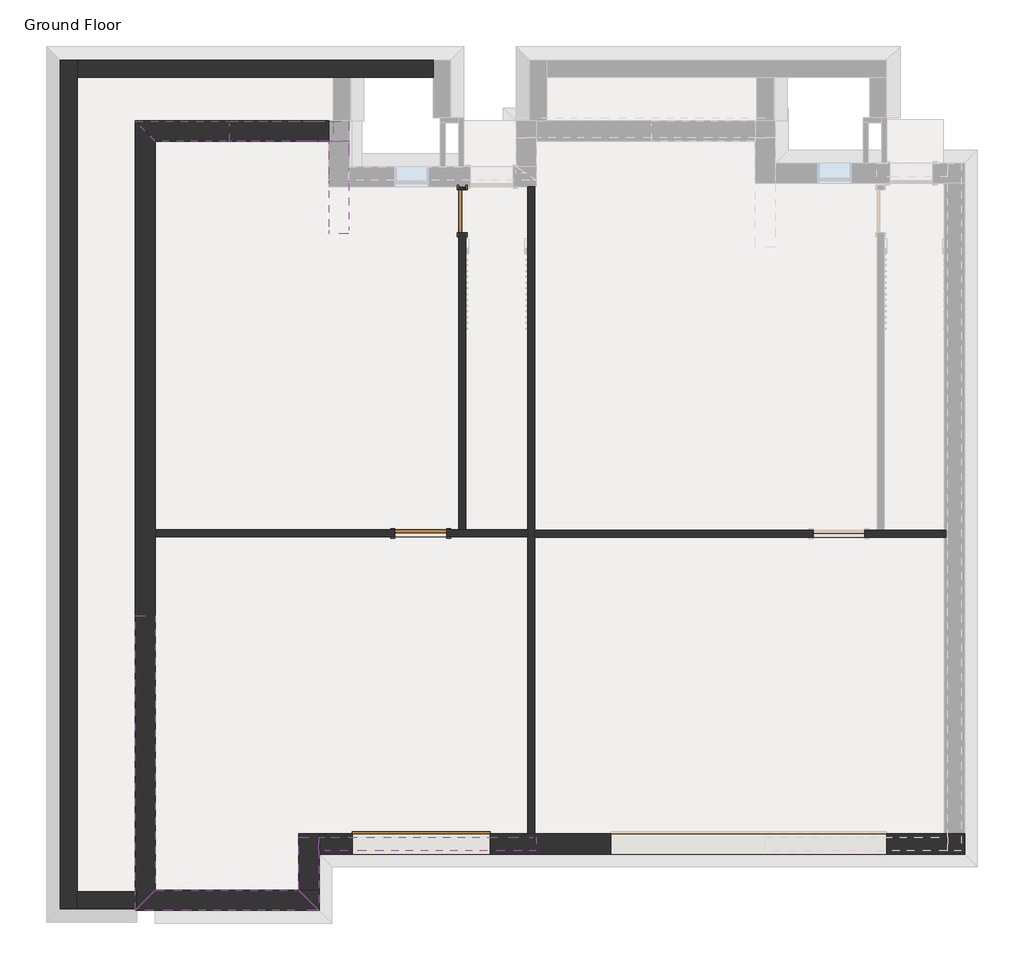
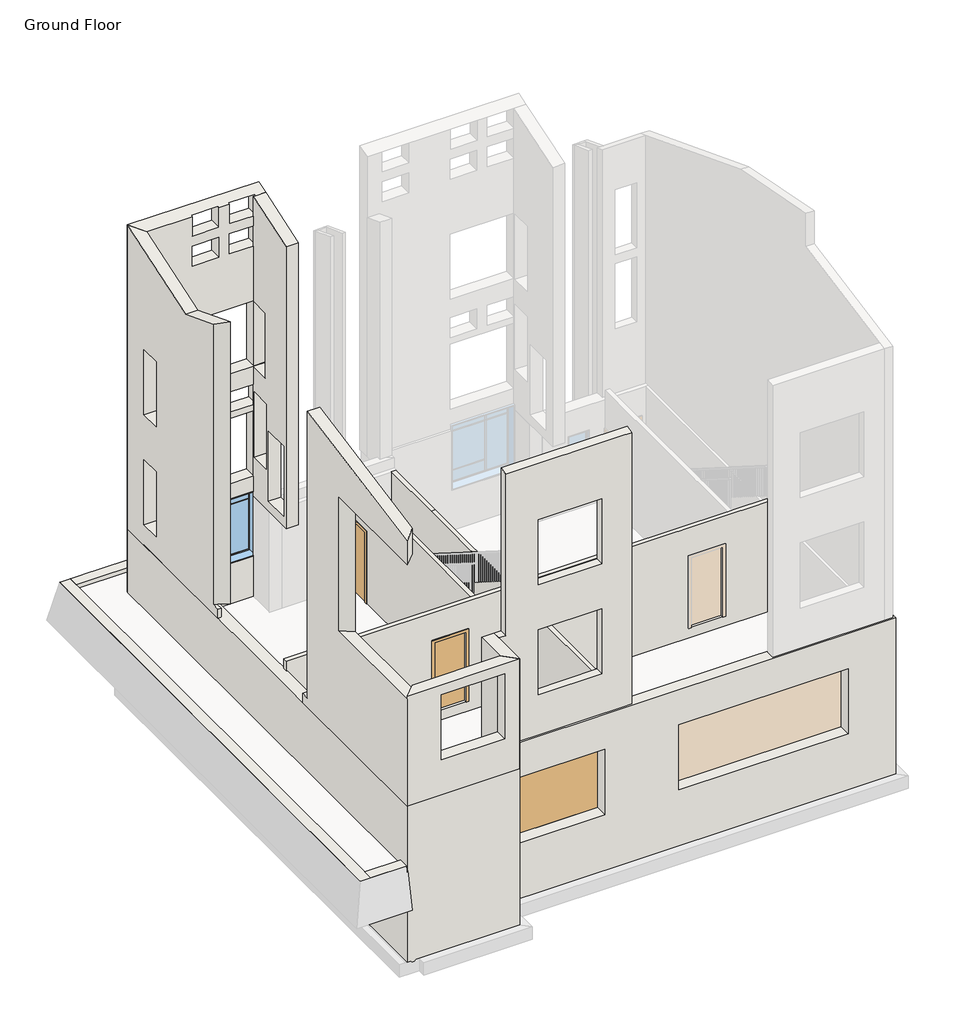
# One storey, part 1 of 3: 18 walls, 3 doors, 1 window.
"""IFC4 building model written with IfcOpenShell, lengths in millimetres."""

from ifc_helpers import new_model, si_unit, frame, origin, place, context, project, spatial, polyline, outline, extrude, faceted_brep, transform, mapped, element, save
from components import door_1b444c49, door_f8acb57e, door_88503111, condo_apartment_window2_condo_apartment_window2_cbcd33dc

model = new_model("IFC4")

# Units and contexts
model_context = context("Model", 3, world=origin())
ifc_project = project(units=[si_unit("LENGTHUNIT", "METRE", prefix="MILLI")], contexts=[model_context])

# Site, building, storey
site = spatial("IfcSite", under=ifc_project)
building = spatial("IfcBuilding", under=site)
storey = spatial("IfcBuildingStorey", under=building, Name="Ground Floor", Elevation=-3352.8)

# Doors
placement = place(None, origin())
door_shape = door_1b444c49(model_context)
element("IfcDoor", 1, ObjectType="Overhead-Sectional : 8' x 6'-6\"", at=placement, inside=storey, context=model_context, shape_type="MappedRepresentation", body=[
    mapped(door_shape, transform((-5759.2997339, 46241.9255538, -3352.8), x_axis=(-1.0, 0.0, 0.0), y_axis=(0.0, -1.0, 0.0), z_axis=(0.0, 0.0, 1.0))),
])
door_2_shape = door_f8acb57e(model_context)
element("IfcDoor", 2, ObjectType="Single-Flush : 30\" x 84\"", at=placement, inside=storey, context=model_context, shape_type="MappedRepresentation", body=[
    mapped(door_2_shape, transform((-5028.6872339, 57427.399008, -3352.8), x_axis=(0.0, 1.0, 0.0), y_axis=(-1.0, 0.0, 0.0), z_axis=(0.0, 0.0, 1.0))),
])
door_3_shape = door_88503111(model_context)
element("IfcDoor", 3, ObjectType="Single-Flush : 36\" x 84\"", at=placement, inside=storey, context=model_context, shape_type="MappedRepresentation", body=[
    mapped(door_3_shape, transform((-5765.2872339, 51730.186508, -3046.4125), x_axis=(1.0, 0.0, 0.0), y_axis=(0.0, 1.0, 0.0), z_axis=(0.0, 0.0, 1.0))),
])

# Walls
element("IfcWall", 4, ObjectType="Exterior - Brick", at=placement, inside=storey, context=model_context, shape_type="Brep", body=[
    faceted_brep([(-10809.4747339, 45069.886508, -304.8), (-7564.2872339, 45069.886508, -304.8), (-7564.2872339, 45069.886508, 3048.0), (-10809.4747339, 45069.886508, 3048.0), (-9822.1344377, 45069.886508, 762.0), (-9822.1344377, 45069.886508, 2743.2), (-7993.3344377, 45069.886508, 2743.2), (-7993.3344377, 45069.886508, 762.0), (-7916.7122339, 45422.311508, -304.8), (-10457.0497339, 45422.311508, -304.8), (-10457.0497339, 45422.311508, 3048.0), (-7916.7122339, 45422.311508, 3048.0), (-9822.1344377, 45422.311508, 2743.2), (-9822.1344377, 45422.311508, 762.0), (-7993.3344377, 45422.311508, 762.0), (-7993.3344377, 45422.311508, 2743.2)], [[[0, 1, 2, 3], [4, 5, 6, 7]], [[8, 9, 10, 11], [12, 13, 14, 15]], [[1, 0, 9, 8]], [[2, 1, 8, 11]], [[0, 3, 10, 9]], [[3, 2, 11, 10]], [[12, 5, 4, 13]], [[13, 4, 7, 14]], [[14, 7, 6, 15]], [[5, 12, 15, 6]]]),
])
element("IfcWall", 5, ObjectType="Exterior - Brick", at=placement, inside=storey, context=model_context, shape_type="Brep", body=[
    faceted_brep([(-7564.2872339, 45069.886508, -304.8), (-7564.2872339, 46121.2755538, -304.8), (-7564.2872339, 46362.5755538, -304.8), (-7564.2872339, 46362.5755538, 3048.0), (-7564.2872339, 46121.2755538, 3048.0), (-7564.2872339, 45069.886508, 3048.0), (-7916.7122339, 45422.311508, -304.8), (-7916.7122339, 45422.311508, 3048.0), (-7916.7122339, 46362.5755538, 3048.0), (-7916.7122339, 46362.5755538, -304.8)], [[[0, 1, 2, 3, 4, 5]], [[6, 7, 8, 9]], [[2, 1, 0, 6, 9]], [[3, 2, 9, 8]], [[0, 5, 7, 6]], [[5, 4, 3, 8, 7]]]),
])
element("IfcWall", 6, ObjectType="Exterior - Brick on Mtl. Stud", at=placement, inside=storey, context=model_context, shape_type="Brep", body=[
    faceted_brep([(-10457.0497339, 58665.924008, 8822.2842549), (-10457.0497339, 58665.924008, 0.0), (-10457.0497339, 58665.924008, -304.8), (-9139.8997339, 58665.924008, -304.8), (-9139.8997339, 58665.924008, -152.4), (-7311.0997339, 58665.924008, -152.4), (-7311.0997339, 58665.924008, -304.8), (-7033.8372339, 58665.924008, -304.8), (-7033.8372339, 58665.924008, 3657.6), (-7386.2622339, 58665.924008, 3657.6), (-9199.2622339, 58665.924008, 3657.6), (-9199.2622339, 58665.924008, 5638.8), (-7386.2622339, 58665.924008, 5638.8), (-7033.8372339, 58665.924008, 5638.8), (-7033.8372339, 58665.924008, 8822.2842549), (-7311.0997339, 58665.924008, 8822.2842549), (-7311.0997339, 58665.924008, 8229.6), (-8073.0997339, 58665.924008, 8229.6), (-8073.0997339, 58665.924008, 8822.2842549), (-8377.8997339, 58665.924008, 8822.2842549), (-8377.8997339, 58665.924008, 8229.6), (-9139.8997339, 58665.924008, 8229.6), (-9139.8997339, 58665.924008, 8822.2842549), (-7370.4622339, 58665.924008, 2286.0), (-7370.4622339, 58665.924008, 304.8), (-9199.2622339, 58665.924008, 304.8), (-9199.2622339, 58665.924008, 2286.0), (-7311.0997339, 58665.924008, 7924.8), (-7311.0997339, 58665.924008, 7315.2), (-8073.0997339, 58665.924008, 7315.2), (-8073.0997339, 58665.924008, 7924.8), (-8377.8997339, 58665.924008, 7924.8), (-8377.8997339, 58665.924008, 7315.2), (-9139.8997339, 58665.924008, 7315.2), (-9139.8997339, 58665.924008, 7924.8), (-7311.0997339, 58665.924008, 3098.8), (-7311.0997339, 58665.924008, 2489.2), (-8073.0997339, 58665.924008, 2489.2), (-8073.0997339, 58665.924008, 3098.8), (-9139.8997339, 58665.924008, 2489.2), (-9139.8997339, 58665.924008, 3098.8), (-8377.8997339, 58665.924008, 3098.8), (-8377.8997339, 58665.924008, 2489.2), (-7033.8372339, 59018.349008, 8938.1680475), (-7033.8372339, 59018.349008, -304.8), (-7311.0997339, 59018.349008, -304.8), (-7311.0997339, 59018.349008, -152.4), (-9139.8997339, 59018.349008, -152.4), (-9139.8997339, 59018.349008, -304.8), (-10809.4747339, 59018.349008, -304.8), (-10809.4747339, 59018.349008, 8938.1680475), (-7370.4622339, 59018.349008, 304.8), (-7370.4622339, 59018.349008, 2286.0), (-9199.2622339, 59018.349008, 2286.0), (-9199.2622339, 59018.349008, 304.8), (-7311.0997339, 59018.349008, 7315.2), (-7311.0997339, 59018.349008, 7924.8), (-8073.0997339, 59018.349008, 7924.8), (-8073.0997339, 59018.349008, 7315.2), (-8377.8997339, 59018.349008, 7315.2), (-8377.8997339, 59018.349008, 7924.8), (-9139.8997339, 59018.349008, 7924.8), (-9139.8997339, 59018.349008, 7315.2), (-7311.0997339, 59018.349008, 8229.6), (-7311.0997339, 59018.349008, 8839.2), (-8073.0997339, 59018.349008, 8839.2), (-8073.0997339, 59018.349008, 8229.6), (-8377.8997339, 59018.349008, 8229.6), (-8377.8997339, 59018.349008, 8839.2), (-9139.8997339, 59018.349008, 8839.2), (-9139.8997339, 59018.349008, 8229.6), (-7311.0997339, 59018.349008, 2489.2), (-7311.0997339, 59018.349008, 3098.8), (-8073.0997339, 59018.349008, 3098.8), (-8073.0997339, 59018.349008, 2489.2), (-9139.8997339, 59018.349008, 3098.8), (-9139.8997339, 59018.349008, 2489.2), (-8377.8997339, 59018.349008, 2489.2), (-8377.8997339, 59018.349008, 3098.8), (-7370.4622339, 59018.349008, 3657.6), (-7370.4622339, 59018.349008, 5638.8), (-9199.2622339, 59018.349008, 5638.8), (-9199.2622339, 59018.349008, 3657.6), (-7033.8372339, 58671.061508, 5638.8), (-7033.8372339, 58671.061508, 3657.6), (-9139.8997339, 58717.3680568, 8839.2), (-8377.8997339, 58717.3680568, 8839.2), (-8073.0997339, 58717.3680568, 8839.2), (-7311.0997339, 58717.3680568, 8839.2), (-7370.4622339, 58671.061508, 3657.6), (-7370.4622339, 58671.061508, 5638.8)], [[[0, 1, 2, 3, 4, 5, 6, 7, 8, 9, 10, 11, 12, 13, 14, 15, 16, 17, 18, 19, 20, 21, 22], [23, 24, 25, 26], [27, 28, 29, 30], [31, 32, 33, 34], [35, 36, 37, 38], [39, 40, 41, 42]], [[43, 44, 45, 46, 47, 48, 49, 50], [51, 52, 53, 54], [55, 56, 57, 58], [59, 60, 61, 62], [63, 64, 65, 66], [67, 68, 69, 70], [71, 72, 73, 74], [75, 76, 77, 78], [79, 80, 81, 82]], [[44, 7, 6, 45]], [[2, 49, 48, 3]], [[7, 44, 43, 14, 13, 83, 84, 8]], [[2, 1, 0, 50, 49]], [[14, 43, 50, 0, 22, 85, 86, 19, 18, 87, 88, 15]], [[5, 46, 45, 6]], [[47, 4, 3, 48]], [[46, 5, 4, 47]], [[23, 52, 51, 24]], [[24, 51, 54, 25]], [[25, 54, 53, 26]], [[52, 23, 26, 53]], [[27, 56, 55, 28]], [[28, 55, 58, 29]], [[29, 58, 57, 30]], [[56, 27, 30, 57]], [[32, 31, 60, 59]], [[33, 32, 59, 62]], [[34, 33, 62, 61]], [[31, 34, 61, 60]], [[88, 64, 63, 16, 15]], [[16, 63, 66, 17]], [[17, 66, 65, 87, 18]], [[64, 88, 87, 65]], [[86, 68, 67, 20, 19]], [[20, 67, 70, 21]], [[21, 70, 69, 85, 22]], [[68, 86, 85, 69]], [[35, 72, 71, 36]], [[36, 71, 74, 37]], [[37, 74, 73, 38]], [[72, 35, 38, 73]], [[76, 75, 40, 39]], [[77, 76, 39, 42]], [[78, 77, 42, 41]], [[75, 78, 41, 40]], [[80, 79, 89, 90]], [[82, 10, 9, 8, 84, 89, 79]], [[10, 82, 81, 11]], [[11, 81, 80, 90, 83, 13, 12]], [[83, 90, 89, 84]]]),
])
element("IfcWall", 7, ObjectType="Exterior - Brick on Mtl. Stud", at=placement, inside=storey, context=model_context, shape_type="Brep", body=[
    faceted_brep([(-10809.4747339, 45069.886508, 2952.8), (-10809.4747339, 48505.649008, 2952.8), (-10809.4747339, 48505.649008, 7052.8), (-10809.4747339, 45069.886508, 7052.8), (-10809.4747339, 45069.886508, 7760.1910285), (-10809.4747339, 50037.586508, 8705.6), (-10809.4747339, 50037.586508, -28.575), (-10809.4747339, 50278.886508, -28.575), (-10809.4747339, 50278.886508, -304.8), (-10809.4747339, 45069.886508, -304.8), (-10457.0497339, 48264.349008, 2952.8), (-10457.0497339, 45422.311508, 2952.8), (-10457.0497339, 45422.311508, 0.0), (-10457.0497339, 45422.311508, -304.8), (-10457.0497339, 50278.886508, -304.8), (-10457.0497339, 50278.886508, -28.575), (-10457.0497339, 50037.586508, -28.575), (-10457.0497339, 50037.586508, 0.0), (-10457.0497339, 50037.586508, 8705.6), (-10457.0497339, 45422.311508, 7827.2614548), (-10457.0497339, 45422.311508, 7052.8), (-10457.0497339, 48264.349008, 7052.8)], [[[0, 1, 2, 3, 4, 5, 6, 7, 8, 9]], [[10, 11, 12, 13, 14, 15, 16, 17, 18, 19, 20, 21]], [[13, 9, 8, 14]], [[1, 0, 11, 10]], [[3, 2, 21, 20]], [[5, 4, 19, 18]], [[6, 16, 15, 7]], [[0, 9, 13, 12, 11]], [[4, 3, 20, 19]], [[6, 5, 18, 17, 16]], [[2, 1, 10, 21]], [[8, 7, 15, 14]]]),
    faceted_brep([(-10809.4747339, 54748.48762, 8511.7370135), (-10809.4747339, 56118.0459244, 7984.4952914), (-10809.4747339, 59018.349008, 8938.1680475), (-10809.4747339, 59018.349008, -304.8), (-10809.4747339, 54507.18762, -304.8), (-10809.4747339, 54507.18762, -28.575), (-10809.4747339, 54748.48762, -28.575), (-10809.4747339, 58197.986508, 304.8), (-10809.4747339, 58197.986508, 2286.0), (-10809.4747339, 57588.386508, 2286.0), (-10809.4747339, 57588.386508, 304.8), (-10809.4747339, 58197.986508, 3657.6), (-10809.4747339, 58197.986508, 5638.8), (-10809.4747339, 57588.386508, 5638.8), (-10809.4747339, 57588.386508, 3657.6), (-10457.0497339, 56118.0459244, 7984.4952914), (-10457.0497339, 54507.18762, 8604.6307787), (-10457.0497339, 54507.18762, 0.0), (-10457.0497339, 58665.924008, 0.0), (-10457.0497339, 58665.924008, 8822.2842549), (-10457.0497339, 58197.986508, 2286.0), (-10457.0497339, 58197.986508, 304.8), (-10457.0497339, 57588.386508, 304.8), (-10457.0497339, 57588.386508, 2286.0), (-10457.0497339, 58197.986508, 5638.8), (-10457.0497339, 58197.986508, 3657.6), (-10457.0497339, 57588.386508, 3657.6), (-10457.0497339, 57588.386508, 5638.8), (-10457.0497339, 58665.924008, -304.8), (-10717.3997339, 58665.924008, -304.8), (-10717.3997339, 54507.18762, -304.8), (-10717.3997339, 54507.18762, -28.575), (-10717.3997339, 54685.4452777, -28.575), (-10717.3997339, 54685.4452777, 0.0), (-10717.3997339, 58665.924008, 0.0)], [[[0, 1, 2, 3, 4, 5, 6], [7, 8, 9, 10], [11, 12, 13, 14]], [[15, 16, 17, 18, 19], [20, 21, 22, 23], [24, 25, 26, 27]], [[3, 28, 29, 30, 4]], [[6, 5, 31, 32]], [[1, 0, 16, 15]], [[2, 1, 15, 19]], [[0, 6, 32, 33, 17, 16]], [[3, 2, 19, 18, 28]], [[20, 8, 7, 21]], [[21, 7, 10, 22]], [[22, 10, 9, 23]], [[8, 20, 23, 9]], [[25, 24, 12, 11]], [[26, 25, 11, 14]], [[27, 26, 14, 13]], [[24, 27, 13, 12]], [[34, 18, 17, 33]], [[30, 31, 5, 4]], [[29, 34, 33, 32, 31, 30]], [[34, 29, 28, 18]]]),
])
element("IfcWall", 8, ObjectType="Exterior - Brick on Mtl. Stud", at=placement, inside=storey, context=model_context, shape_type="Brep", body=[
    faceted_brep([(-7386.2622339, 58665.924008, -304.8), (-7386.2622339, 57029.586508, -304.8), (-7386.2622339, 57029.586508, 0.0), (-7386.2622339, 57029.586508, 6705.6), (-7386.2622339, 57029.586508, 8284.2265248), (-7386.2622339, 58665.924008, 8822.2842549), (-7386.2622339, 58665.924008, 5638.8), (-7386.2622339, 58061.461508, 5638.8), (-7386.2622339, 58061.461508, 3657.6), (-7386.2622339, 58665.924008, 3657.6), (-7386.2622339, 57153.411508, 0.0), (-7386.2622339, 57915.411508, 0.0), (-7386.2622339, 57915.411508, 2133.6), (-7386.2622339, 57153.411508, 2133.6), (-7386.2622339, 58010.661508, 2895.6), (-7386.2622339, 58010.661508, 914.4), (-7386.2622339, 58620.261508, 914.4), (-7386.2622339, 58620.261508, 2895.6), (-7033.8372339, 57029.586508, -304.8), (-7033.8372339, 57973.4989967, -304.8), (-7033.8372339, 58214.7989967, -304.8), (-7033.8372339, 58665.924008, -304.8), (-7033.8372339, 58665.924008, 3657.6), (-7033.8372339, 58061.461508, 3657.6), (-7033.8372339, 58061.461508, 5638.8), (-7033.8372339, 58665.924008, 5638.8), (-7033.8372339, 58665.924008, 8822.2842549), (-7033.8372339, 57029.586508, 8284.2265248), (-7033.8372339, 57915.411508, 0.0), (-7033.8372339, 57153.411508, 0.0), (-7033.8372339, 57153.411508, 2133.6), (-7033.8372339, 57915.411508, 2133.6), (-7033.8372339, 58010.661508, 914.4), (-7033.8372339, 58010.661508, 2895.6), (-7033.8372339, 58620.261508, 2895.6), (-7033.8372339, 58620.261508, 914.4), (-7311.0997339, 58665.924008, -304.8), (-7311.0997339, 58665.924008, 8822.2842549)], [[[0, 1, 2, 3, 4, 5, 6, 7, 8, 9], [10, 11, 12, 13], [14, 15, 16, 17]], [[18, 19, 20, 21, 22, 23, 24, 25, 26, 27], [28, 29, 30, 31], [32, 33, 34, 35]], [[1, 0, 36, 21, 20, 19, 18]], [[4, 3, 2, 1, 18, 27]], [[21, 36, 0, 9, 22]], [[5, 37, 26, 25, 6]], [[5, 4, 27, 26, 37]], [[29, 28, 11, 10]], [[30, 29, 10, 13]], [[31, 30, 13, 12]], [[28, 31, 12, 11]], [[14, 33, 32, 15]], [[15, 32, 35, 16]], [[16, 35, 34, 17]], [[33, 14, 17, 34]], [[7, 24, 23, 8]], [[8, 23, 22, 9]], [[24, 7, 6, 25]]]),
])
element("IfcWall", 9, ObjectType="Exterior - Stucco", at=placement, inside=storey, context=model_context, shape_type="Brep", body=[
    faceted_brep([(-3726.9372339, 46362.5755538, -304.8), (-7564.2872339, 46362.5755538, -304.8), (-7564.2872339, 46362.5755538, 3048.0), (-7355.0497339, 46362.5755538, 3048.0), (-7355.0497339, 46362.5755538, 8006.2042381), (-3850.7622339, 46362.5755538, 8006.2042381), (-3726.9372339, 46362.5755538, 8006.2042381), (-3726.9372339, 46362.5755538, 0.0), (-6417.8691415, 46362.5755538, 2895.6), (-6417.8691415, 46362.5755538, 914.4), (-4589.0691415, 46362.5755538, 914.4), (-4589.0691415, 46362.5755538, 2895.6), (-6417.8691415, 46362.5755538, 6248.4), (-6417.8691415, 46362.5755538, 4267.2), (-4589.0691415, 46362.5755538, 4267.2), (-4589.0691415, 46362.5755538, 6248.4), (-3726.9372339, 46121.2755538, -304.8), (-3726.9372339, 46121.2755538, 7960.2821444), (-3968.2372339, 46121.2755538, 7960.2821444), (-7355.0497339, 46121.2755538, 7960.2821444), (-7355.0497339, 46121.2755538, 7052.6671875), (-7355.0497339, 46121.2755538, 3048.0), (-7564.2872339, 46121.2755538, 3048.0), (-7564.2872339, 46121.2755538, -304.8), (-3968.2372339, 46121.2755538, -304.8), (-6417.8691415, 46121.2755538, 2895.6), (-4589.0691415, 46121.2755538, 2895.6), (-4589.0691415, 46121.2755538, 914.4), (-6417.8691415, 46121.2755538, 914.4), (-6417.8691415, 46121.2755538, 6248.4), (-4589.0691415, 46121.2755538, 6248.4), (-4589.0691415, 46121.2755538, 4267.2), (-6417.8691415, 46121.2755538, 4267.2)], [[[0, 1, 2, 3, 4, 5, 6, 7], [8, 9, 10, 11], [12, 13, 14, 15]], [[16, 17, 18, 19, 20, 21, 22, 23, 24], [25, 26, 27, 28], [29, 30, 31, 32]], [[1, 0, 16, 24, 23]], [[0, 7, 6, 17, 16]], [[2, 1, 23, 22]], [[19, 4, 3, 21, 20]], [[3, 2, 22, 21]], [[6, 5, 4, 19, 18, 17]], [[9, 8, 25, 28]], [[10, 9, 28, 27]], [[11, 10, 27, 26]], [[8, 11, 26, 25]], [[13, 12, 29, 32]], [[14, 13, 32, 31]], [[15, 14, 31, 30]], [[12, 15, 30, 29]]]),
])
element("IfcWall", 10, ObjectType="Foundation - 12\" Concrete", at=placement, inside=storey, context=model_context, shape_type="Brep", body=[
    faceted_brep([(-10809.4747339, 59019.936508, -304.8), (-9139.8997339, 59019.936508, -304.8), (-9139.8997339, 59019.936508, -2133.6), (-7387.8497339, 59019.936508, -2133.6), (-7387.8497339, 59019.936508, -5054.6), (-10809.4747339, 59019.936508, -5054.6), (-9139.8997339, 58664.336508, -304.8), (-10453.8747339, 58664.336508, -304.8), (-10453.8747339, 58664.336508, -5054.6), (-7387.8497339, 58664.336508, -5054.6), (-7387.8497339, 58664.336508, -2133.6), (-9139.8997339, 58664.336508, -2133.6), (-10707.8747339, 58918.336508, -5054.6), (-10667.4635813, 58877.9253554, -5095.0111525), (-10595.8858864, 58806.3476605, -5095.0111525), (-10555.4747339, 58765.936508, -5054.6), (-7387.8497339, 59018.349008, -2133.6), (-7387.8497339, 58665.924008, -2133.6), (-7387.8497339, 58765.936508, -5054.6), (-7387.8497339, 58806.3476605, -5095.0111525), (-7387.8497339, 58877.9253554, -5095.0111525), (-7387.8497339, 58918.336508, -5054.6)], [[[0, 1, 2, 3, 4, 5]], [[6, 7, 8, 9, 10, 11]], [[0, 7, 6, 1]], [[7, 0, 5, 12, 13, 14, 15, 8]], [[3, 16, 17, 10, 9, 18, 19, 20, 21, 4]], [[2, 11, 10, 17, 16, 3]], [[11, 2, 1, 6]], [[21, 12, 5, 4]], [[13, 20, 19, 14]], [[15, 18, 9, 8]], [[20, 13, 12, 21]], [[18, 15, 14, 19]]]),
])
element("IfcWall", 11, ObjectType="Foundation - 12\" Concrete", at=placement, inside=storey, context=model_context, shape_type="Brep", body=[
    faceted_brep([(-7562.6997339, 45068.299008, -304.8), (-10809.4747339, 45068.299008, -304.8), (-10809.4747339, 45068.299008, -5054.6), (-10707.8747339, 45068.299008, -5054.6), (-10667.4635813, 45068.299008, -5095.0111525), (-10631.6747339, 45068.299008, -5095.0111525), (-10595.8858864, 45068.299008, -5095.0111525), (-10555.4747339, 45068.299008, -5054.6), (-7562.6997339, 45068.299008, -5054.6), (-10453.8747339, 45423.899008, -304.8), (-7918.2997339, 45423.899008, -304.8), (-7562.6997339, 45423.899008, -304.8), (-7562.6997339, 45423.899008, -5054.6), (-7664.2997339, 45423.899008, -5054.6), (-7704.7108864, 45423.899008, -5095.0111525), (-7776.2885813, 45423.899008, -5095.0111525), (-7816.6997339, 45423.899008, -5054.6), (-7918.2997339, 45423.899008, -5054.6), (-10453.8747339, 45423.899008, -5054.6), (-10555.4747339, 45322.299008, -5054.6), (-10595.8858864, 45281.8878554, -5095.0111525), (-10631.6747339, 45246.099008, -5095.0111525), (-10667.4635813, 45210.3101605, -5095.0111525), (-10707.8747339, 45169.899008, -5054.6), (-7664.2997339, 45169.899008, -5054.6), (-7816.6997339, 45322.299008, -5054.6), (-10225.2747339, 45322.299008, -5054.6), (-10225.2747339, 45169.899008, -5054.6), (-7704.7108864, 45210.3101605, -5095.0111525), (-10225.2747339, 45210.3101605, -5095.0111525), (-10225.2747339, 45281.8878554, -5095.0111525), (-7776.2885813, 45281.8878554, -5095.0111525)], [[[0, 1, 2, 3, 4, 5, 6, 7, 8]], [[9, 10, 11, 12, 13, 14, 15, 16, 17, 18]], [[1, 0, 11, 10, 9]], [[11, 0, 8, 12]], [[1, 9, 18, 19, 20, 21, 22, 23, 2]], [[24, 13, 12, 8, 7, 19, 18, 17, 16, 25, 26, 27]], [[28, 24, 27, 29]], [[14, 28, 29, 30, 31, 15]], [[25, 31, 30, 26]], [[24, 28, 14, 13]], [[31, 25, 16, 15]], [[23, 3, 2]], [[3, 23, 22, 4]], [[4, 22, 21, 5]], [[5, 21, 20, 6]], [[6, 20, 19, 7]], [[27, 26, 30, 29]]]),
])
element("IfcWall", 12, ObjectType="Foundation - 12\" Concrete", at=placement, inside=storey, context=model_context, shape_type="Brep", body=[
    faceted_brep([(-7562.6997339, 46419.7255538, -304.8), (-7562.6997339, 46064.1255538, -304.8), (-7562.6997339, 45423.899008, -304.8), (-7562.6997339, 45423.899008, -5054.6), (-7562.6997339, 46064.1255538, -5054.6), (-7562.6997339, 46165.7255538, -5054.6), (-7562.6997339, 46206.1367064, -5095.0111525), (-7562.6997339, 46277.7144013, -5095.0111525), (-7562.6997339, 46318.1255538, -5054.6), (-7562.6997339, 46419.7255538, -5054.6), (-7918.2997339, 45423.899008, -304.8), (-7918.2997339, 46419.7255538, -304.8), (-7918.2997339, 46419.7255538, -5054.6), (-7918.2997339, 45423.899008, -5054.6), (-7816.6997339, 45423.899008, -5054.6), (-7776.2885813, 45423.899008, -5095.0111525), (-7704.7108864, 45423.899008, -5095.0111525), (-7664.2997339, 45423.899008, -5054.6), (-7664.2997339, 46165.7255538, -5054.6), (-7776.2885813, 46277.7144013, -5095.0111525), (-7704.7108864, 46206.1367064, -5095.0111525), (-7816.6997339, 46318.1255538, -5054.6)], [[[0, 1, 2, 3, 4, 5, 6, 7, 8, 9]], [[10, 11, 12, 13]], [[2, 1, 0, 11, 10]], [[11, 0, 9, 12]], [[2, 10, 13, 14, 15, 16, 17, 3]], [[17, 18, 5, 4, 3]], [[15, 19, 7, 6, 20, 16]], [[8, 21, 14, 13, 12, 9]], [[20, 18, 17, 16]], [[21, 19, 15, 14]], [[18, 20, 6, 5]], [[19, 21, 8, 7]]]),
])
element("IfcWall", 13, ObjectType="Foundation - 12\" Concrete", at=placement, inside=storey, context=model_context, shape_type="Brep", body=[
    faceted_brep([(3845.8480231, 46064.1255538, -304.8), (-7562.6997339, 46064.1255538, -304.8), (-7562.6997339, 46064.1255538, -5054.6), (3845.8480231, 46064.1255538, -5054.6), (2470.3002661, 46064.1255538, -1371.6), (2470.3002661, 46064.1255538, -3352.8), (-2406.4997339, 46064.1255538, -3352.8), (-2406.4997339, 46064.1255538, -1371.6), (-6978.4997339, 46064.1255538, -3352.8), (-6978.4997339, 46064.1255538, -1371.6), (-4540.0997339, 46064.1255538, -1371.6), (-4540.0997339, 46064.1255538, -3352.8), (-7562.6997339, 46419.7255538, -304.8), (3490.2480231, 46419.7255538, -304.8), (3845.8480231, 46419.7255538, -304.8), (3845.8480231, 46419.7255538, -5054.6), (3744.2480231, 46419.7255538, -5054.6), (3703.8368706, 46419.7255538, -5095.0111525), (3632.2591756, 46419.7255538, -5095.0111525), (3591.8480231, 46419.7255538, -5054.6), (3490.2480231, 46419.7255538, -5054.6), (-7562.6997339, 46419.7255538, -5054.6), (2470.3002661, 46419.7255538, -3352.8), (2470.3002661, 46419.7255538, -1371.6), (-2406.4997339, 46419.7255538, -1371.6), (-2406.4997339, 46419.7255538, -3352.8), (-6978.4997339, 46419.7255538, -1371.6), (-6978.4997339, 46419.7255538, -3352.8), (-4540.0997339, 46419.7255538, -3352.8), (-4540.0997339, 46419.7255538, -1371.6), (-7562.6997339, 46318.1255538, -5054.6), (-7562.6997339, 46277.7144013, -5095.0111525), (-7562.6997339, 46206.1367064, -5095.0111525), (-7562.6997339, 46165.7255538, -5054.6), (3744.2480231, 46165.7255538, -5054.6), (3632.2591756, 46277.7144013, -5095.0111525), (3703.8368706, 46206.1367064, -5095.0111525), (3591.8480231, 46318.1255538, -5054.6)], [[[0, 1, 2, 3], [4, 5, 6, 7], [8, 9, 10, 11]], [[12, 13, 14, 15, 16, 17, 18, 19, 20, 21], [22, 23, 24, 25], [26, 27, 28, 29]], [[1, 0, 14, 13, 12]], [[1, 12, 21, 30, 31, 32, 33, 2]], [[14, 0, 3, 15]], [[22, 5, 4, 23]], [[23, 4, 7, 24]], [[24, 7, 6, 25]], [[5, 22, 25, 6]], [[9, 8, 27, 26]], [[10, 9, 26, 29]], [[11, 10, 29, 28]], [[8, 11, 28, 27]], [[33, 34, 16, 15, 3, 2]], [[31, 35, 18, 17, 36, 32]], [[19, 37, 30, 21, 20]], [[36, 34, 33, 32]], [[37, 35, 31, 30]], [[34, 36, 17, 16]], [[35, 37, 19, 18]]]),
])
element("IfcWall", 14, ObjectType="Foundation - 12\" Concrete", at=placement, inside=storey, context=model_context, shape_type="Brep", body=[
    faceted_brep([(-10809.4747339, 45068.299008, -304.8), (-10809.4747339, 59019.936508, -304.8), (-10809.4747339, 59019.936508, -5054.6), (-10809.4747339, 45068.299008, -5054.6), (-10453.8747339, 58664.336508, -304.8), (-10453.8747339, 45423.899008, -304.8), (-10453.8747339, 45423.899008, -5054.6), (-10453.8747339, 58664.336508, -5054.6), (-10555.4747339, 58765.936508, -5054.6), (-10595.8858864, 58806.3476605, -5095.0111525), (-10667.4635813, 58877.9253554, -5095.0111525), (-10707.8747339, 58918.336508, -5054.6), (-10707.8747339, 45169.899008, -5054.6), (-10667.4635813, 45210.3101605, -5095.0111525), (-10595.8858864, 45281.8878554, -5095.0111525), (-10555.4747339, 45322.299008, -5054.6)], [[[0, 1, 2, 3]], [[4, 5, 6, 7]], [[1, 0, 5, 4]], [[1, 4, 7, 8, 9, 10, 11, 2]], [[5, 0, 3, 12, 13, 14, 15, 6]], [[11, 12, 3, 2]], [[9, 14, 13, 10]], [[15, 8, 7, 6]], [[12, 11, 10, 13]], [[14, 9, 8, 15]]]),
])
element("IfcWall", 15, ObjectType="Interior - 4 7/8\" Partition (1-hr)", at=placement, inside=storey, context=model_context, shape_type="Brep", body=[
    faceted_brep([(-3874.5747339, 57859.199008, -3352.8), (-3874.5747339, 51792.099008, -3352.8), (-3874.5747339, 51668.274008, -3352.8), (-3874.5747339, 46394.3255538, -3352.8), (-3874.5747339, 46394.3255538, -304.8), (-3874.5747339, 51891.461508, -304.8), (-3874.5747339, 55880.2364967, -304.8), (-3874.5747339, 57859.199008, -304.8), (-3750.7497339, 57859.199008, -3352.8), (-3750.7497339, 57859.199008, -304.8), (-3750.7497339, 55880.2364967, -304.8), (-3750.7497339, 51891.461508, -304.8), (-3750.7497339, 46394.3255538, -304.8), (-3750.7497339, 46394.3255538, -3352.8), (-3750.7497339, 51663.4458856, -3352.8), (-3750.7497339, 51787.2708856, -3352.8)], [[[0, 1, 2, 3, 4, 5, 6, 7]], [[8, 9, 10, 11, 12, 13, 14, 15]], [[3, 2, 1, 0, 8, 15, 14, 13]], [[4, 3, 13, 12]], [[0, 7, 9, 8]], [[6, 5, 11, 10]], [[5, 4, 12, 11]], [[7, 6, 10, 9]]]),
])
element("IfcWall", 16, ObjectType="Interior - 4 7/8\" Partition (1-hr)", at=placement, inside=storey, context=model_context, shape_type="Brep", body=[
    faceted_brep([(-3874.5747339, 51792.099008, -3352.8), (-4966.7747339, 51792.099008, -3352.8), (-5090.5997339, 51792.099008, -3352.8), (-10480.8622339, 51792.099008, -3352.8), (-10480.8622339, 51792.099008, 0.0), (-5090.5997339, 51792.099008, 0.0), (-4966.7747339, 51792.099008, 0.0), (-3874.5747339, 51792.099008, 0.0), (-6222.4872339, 51792.099008, -3046.4125), (-5308.0872339, 51792.099008, -3046.4125), (-5308.0872339, 51792.099008, -912.8125), (-6222.4872339, 51792.099008, -912.8125), (-3874.5747339, 51668.274008, -3352.8), (-3874.5747339, 51668.274008, 0.0), (-10480.8622339, 51668.274008, 0.0), (-10480.8622339, 51668.274008, -3352.8), (-6222.4872339, 51668.274008, -3046.4125), (-6222.4872339, 51668.274008, -912.8125), (-5308.0872339, 51668.274008, -912.8125), (-5308.0872339, 51668.274008, -3046.4125)], [[[0, 1, 2, 3, 4, 5, 6, 7], [8, 9, 10, 11]], [[12, 13, 14, 15], [16, 17, 18, 19]], [[3, 2, 1, 0, 12, 15]], [[4, 3, 15, 14]], [[7, 6, 5, 4, 14, 13]], [[0, 7, 13, 12]], [[9, 8, 16, 19]], [[10, 9, 19, 18]], [[11, 10, 18, 17]], [[8, 11, 17, 16]]]),
])
element("IfcWall", 17, ObjectType="Interior - 4 7/8\" Partition (1-hr)", at=placement, inside=storey, context=model_context, shape_type="Brep", body=[
    faceted_brep([(-3750.7497339, 51663.4458856, -3352.8), (3515.6480231, 51663.4458856, -3352.8), (3515.6480231, 51663.4458856, 0.0), (-3750.7497339, 51663.4458856, 0.0), (1168.0985514, 51663.4458856, -3046.4125), (1168.0985514, 51663.4458856, -912.8125), (2082.4985514, 51663.4458856, -912.8125), (2082.4985514, 51663.4458856, -3046.4125), (-3750.7497339, 51787.2708856, -3352.8), (-3750.7497339, 51787.2708856, 0.0), (2299.6230231, 51787.2708856, 0.0), (2423.4480231, 51787.2708856, 0.0), (3515.6480231, 51787.2708856, 0.0), (3515.6480231, 51787.2708856, -3352.8), (2423.4480231, 51787.2708856, -3352.8), (2299.6230231, 51787.2708856, -3352.8), (1168.0985514, 51787.2708856, -3046.4125), (2082.4985514, 51787.2708856, -3046.4125), (2082.4985514, 51787.2708856, -912.8125), (1168.0985514, 51787.2708856, -912.8125)], [[[0, 1, 2, 3], [4, 5, 6, 7]], [[8, 9, 10, 11, 12, 13, 14, 15], [16, 17, 18, 19]], [[1, 0, 8, 15, 14, 13]], [[2, 1, 13, 12]], [[3, 2, 12, 11, 10, 9]], [[0, 3, 9, 8]], [[17, 16, 4, 7]], [[18, 17, 7, 6]], [[19, 18, 6, 5]], [[16, 19, 5, 4]]]),
])
element("IfcWall", 18, ObjectType="Interior - 4 7/8\" Partition (1-hr)", at=placement, inside=storey, context=model_context, shape_type="SweptSolid", body=[
    extrude(outline(polyline([(57851.586508, 0.0), (57851.586508, -3352.8), (57808.399008, -3352.8), (57808.399008, -1219.2), (57046.399008, -1219.2), (57046.399008, -3352.8), (51792.099008, -3352.8), (51792.099008, 0.0), (57851.586508, 0.0)])), frame((-5090.5997339, 0.0, 0.0), z_axis=(1.0, 0.0, 0.0), x_axis=(0.0, 1.0, 0.0)), (0.0, 0.0, 1.0), 123.825),
])
element("IfcWall", 19, ObjectType="Retaining - Stone", at=placement, inside=storey, context=model_context, shape_type="Brep", body=[
    faceted_brep([(-11836.7364957, 45093.699008, -3352.8), (-11836.7364957, 45398.499008, -3352.8), (-11836.7364957, 59793.949008, -3352.8), (-11836.7364957, 60098.749008, -3352.8), (-11836.7364957, 60098.749008, -2133.6), (-11836.7364957, 59793.949008, -2133.6), (-11836.7364957, 45398.499008, -2133.6), (-11836.7364957, 45093.699008, -2133.6), (-12141.5364957, 60098.749008, -3352.8), (-12141.5364957, 45093.699008, -3352.8), (-12141.5364957, 45093.699008, -2133.6), (-12141.5364957, 60098.749008, -2133.6)], [[[0, 1, 2, 3, 4, 5, 6, 7]], [[8, 9, 10, 11]], [[3, 2, 1, 0, 9, 8]], [[7, 6, 5, 4, 11, 10]], [[4, 3, 8, 11]], [[0, 7, 10, 9]]]),
])
element("IfcWall", 20, ObjectType="Retaining - Stone", at=placement, inside=storey, context=model_context, shape_type="Brep", body=[
    faceted_brep([(-11836.7364957, 59793.949008, -3352.8), (-7311.6497339, 59793.949008, -3352.8), (-7006.8497339, 59793.949008, -3352.8), (-5546.1295887, 59793.949008, -3352.8), (-5546.1295887, 59793.949008, -2133.6), (-7006.8497339, 59793.949008, -2133.6), (-7311.6497339, 59793.949008, -2133.6), (-11836.7364957, 59793.949008, -2133.6), (-5546.1295887, 60098.749008, -3352.8), (-11836.7364957, 60098.749008, -3352.8), (-11836.7364957, 60098.749008, -2133.6), (-5546.1295887, 60098.749008, -2133.6)], [[[0, 1, 2, 3, 4, 5, 6, 7]], [[8, 9, 10, 11]], [[3, 2, 1, 0, 9, 8]], [[7, 6, 5, 4, 11, 10]], [[0, 7, 10, 9]], [[4, 3, 8, 11]]]),
])
element("IfcWall", 21, ObjectType="Retaining - Stone", at=placement, inside=storey, context=model_context, shape_type="SweptSolid", body=[
    extrude(outline(polyline([(-10785.6622339, 45093.699008), (-11836.7364957, 45093.699008), (-11836.7364957, 45398.499008), (-10785.6622339, 45398.499008), (-10785.6622339, 45093.699008)])), frame((0.0, 0.0, -3352.8), z_axis=(0.0, 0.0, 1.0), x_axis=(1.0, 0.0, 0.0)), (0.0, 0.0, 1.0), 1219.2),
])

# Window
condo_apartment_window2_condo_apartment_window2_shape = condo_apartment_window2_condo_apartment_window2_cbcd33dc(model_context)
element("IfcWindow", 22, ObjectType="Condo - Apartment Window2 : Condo - Apartment Window2", at=placement, inside=storey, context=model_context, shape_type="MappedRepresentation", body=[
    mapped(condo_apartment_window2_condo_apartment_window2_shape, transform((-8187.3997339, 58842.136508, -2730.5), x_axis=(1.0, 0.0, 0.0), y_axis=(0.0, 1.0, 0.0), z_axis=(0.0, 0.0, 1.0))),
])

save(model, "model.ifc")
